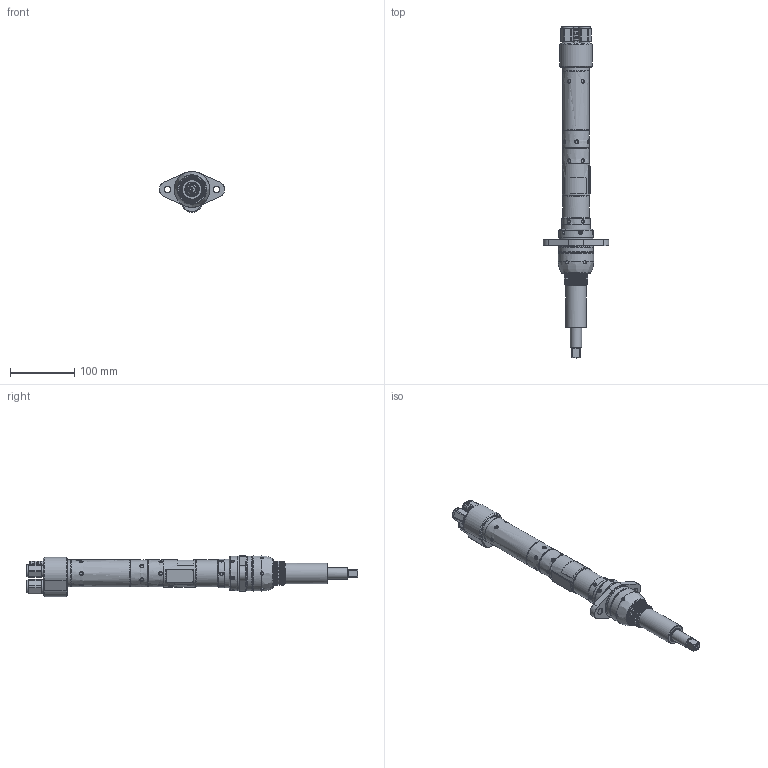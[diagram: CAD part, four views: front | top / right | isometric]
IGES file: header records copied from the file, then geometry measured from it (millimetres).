
Global section: file name: C:\Documents and Settings\sunni\Desktop\45498540\45498540.igs; native system: NX V4.0; preprocessor: UGS NX IGES V4.0; date: 20070808.095129; units: millimetre
Bounding box: 101.6 x 517.07 x 63.94 mm (x, y, z)
Surface area: 102380.9 mm2 (no closed solid volume)
Topology: 0 solids, 0 shells, 1083 faces, 8208 edges, 8023 vertices
Faces by surface type: bspline 1083
